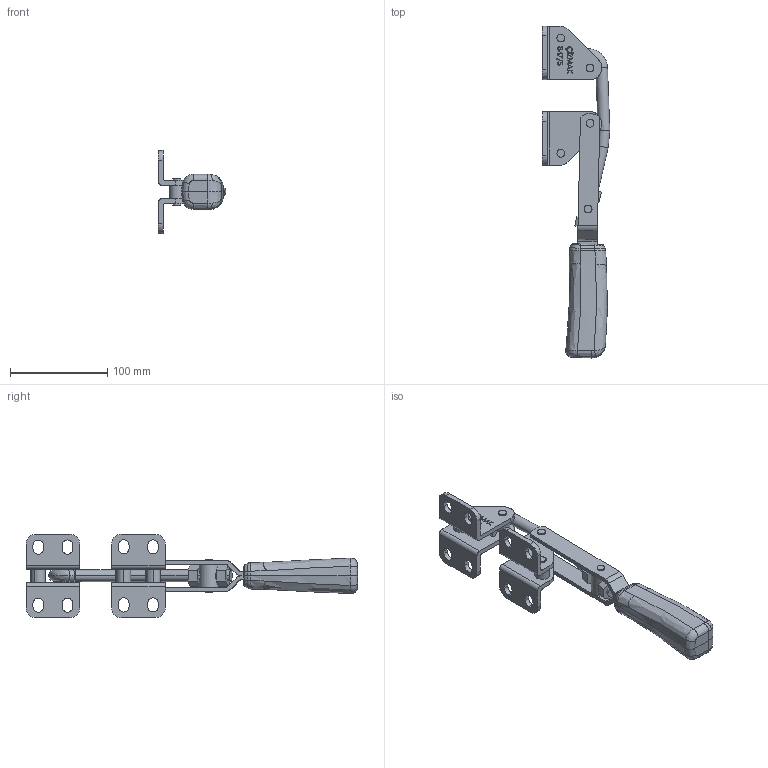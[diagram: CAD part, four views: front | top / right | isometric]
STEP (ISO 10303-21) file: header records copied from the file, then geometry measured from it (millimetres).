
FILE_DESCRIPTION (( 'STEP AP214' ), '1' );
FILE_NAME ('M46-5.STEP', '2018-02-09T09:27:12', ( '' ), ( '' ), 'SwSTEP 2.0', 'SolidWorks 2015', '' );
FILE_SCHEMA (( 'AUTOMOTIVE_DESIGN' ));
Length unit declared in the file: millimetre
Products named in the file (12): 847-5-4 ayak_2; 847-5-6 somun; 847-5-1 kanca; 847-5-2; 847-5-5 kol; 847-5-7 ayak; 847-5-3 ayak; 847-5-4 ayak; M46-5; 5; 847-5-10 percin; 847-5-9 percin
Assembly tree (18 placements, depth 2):
  M46-5
    847-5-4 ayak
    847-5-3 ayak  x2
    847-5-7 ayak  x4
    847-5-5 kol
    847-5-2
    847-5-1 kanca
    847-5-6 somun  x2
    847-5-4 ayak_2
    847-5-9 percin
    847-5-10 percin  x3
    5
Bounding box: 69.36 x 340.62 x 85.35 mm (x, y, z)
Volume: 279270.5 mm3; surface area: 94425.1 mm2
Topology: 18 solids, 18 shells, 613 faces, 1560 edges, 1021 vertices
Faces by surface type: plane 317, bspline 174, cylinder 122
Entity records: 31529 total; most frequent: CARTESIAN_POINT 13115, ORIENTED_EDGE 2762, DIRECTION 1938, EDGE_CURVE 1381, VERTEX_POINT 903, VECTOR 850, LINE 850, EDGE_LOOP 610
